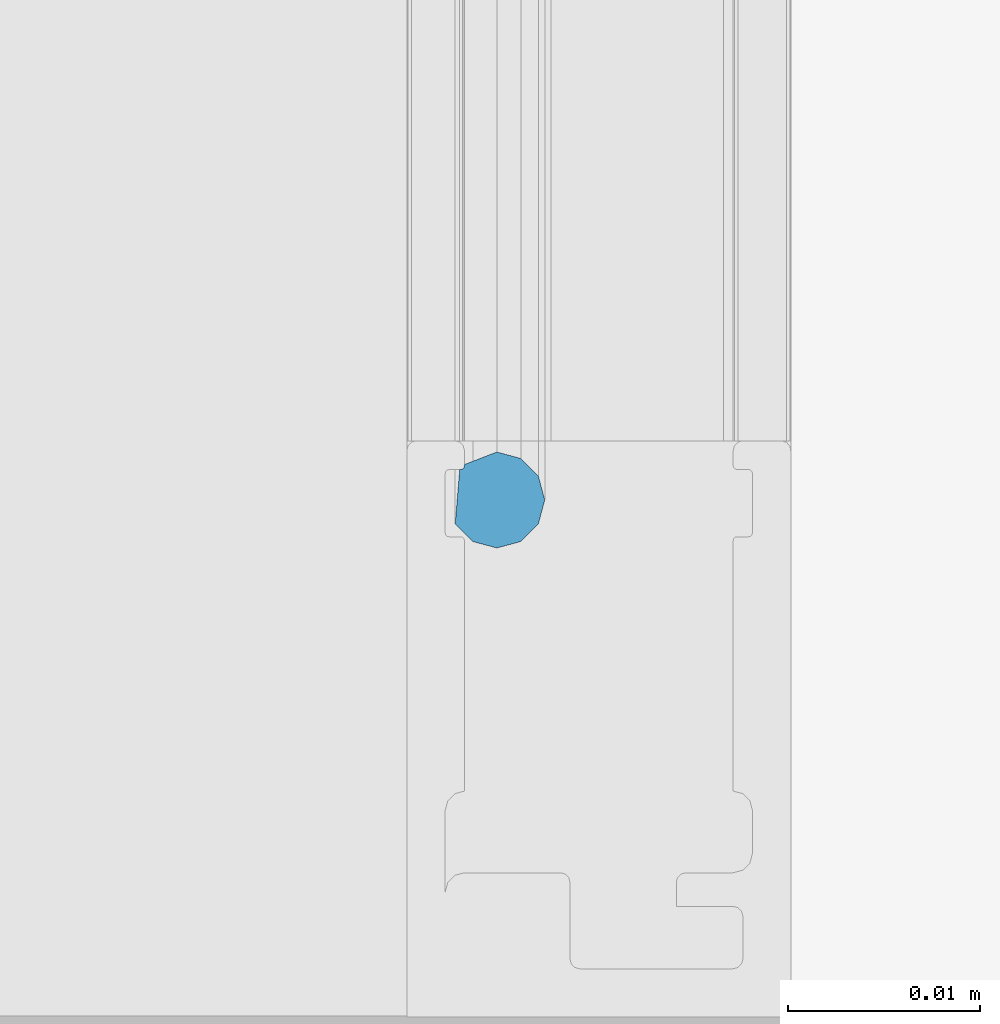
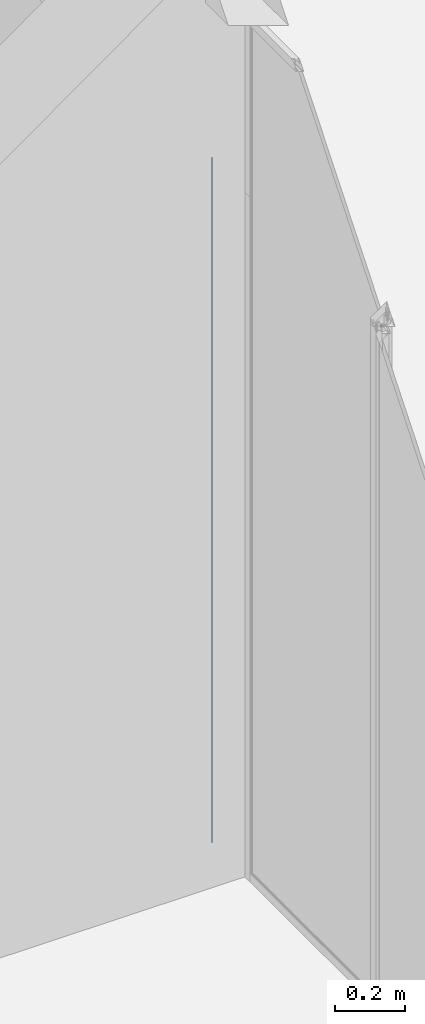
# One storey, part 93 of 387: 1 building element part, 2 elements without a shape of their own.
"""IFC2X3 building model written with IfcOpenShell, lengths in millimetres."""

from ifc_helpers import new_model, entity, si_unit, converted_unit, derived_unit, money_unit, direction, frame, origin_with_axes, place, context, subcontext, project, spatial, faceted_brep, source, transform, mapped, material, type_object, element, aggregate, save


model = new_model("IFC2X3")

# Units and contexts
model_context = context("Model", 3, precision=0.01, world=origin_with_axes(), true_north=direction((0.0, 1.0)))
body_context = subcontext(model_context, "Body", "Model", "MODEL_VIEW")
ifc_project = project(units=[si_unit("LENGTHUNIT", "METRE", prefix="MILLI"), si_unit("AREAUNIT", "SQUARE_METRE"), si_unit("VOLUMEUNIT", "CUBIC_METRE"), converted_unit("PLANEANGLEUNIT", "DEGREE", entity("IfcPlaneAngleMeasure", 0.0174532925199), si_unit("PLANEANGLEUNIT", "RADIAN"), dimensions=[0, 0, 0, 0, 0, 0, 0]), si_unit("SOLIDANGLEUNIT", "STERADIAN"), money_unit("EUR"), converted_unit("TIMEUNIT", "Year", entity("IfcTimeMeasure", 31556926.0), si_unit("TIMEUNIT", "SECOND"), dimensions=[0, 0, 1, 0, 0, 0, 0]), si_unit("MASSUNIT", "GRAM", prefix="KILO"), si_unit("THERMODYNAMICTEMPERATUREUNIT", "DEGREE_CELSIUS"), si_unit("LUMINOUSINTENSITYUNIT", "LUMEN"), si_unit("ENERGYUNIT", "JOULE", prefix="MEGA"), derived_unit("THERMALCONDUCTANCEUNIT", [(si_unit("POWERUNIT", "WATT"), 1), (si_unit("LENGTHUNIT", "METRE"), -1), (si_unit("THERMODYNAMICTEMPERATUREUNIT", "KELVIN"), -1)]), derived_unit("SPECIFICHEATCAPACITYUNIT", [(si_unit("ENERGYUNIT", "JOULE"), 1), (si_unit("MASSUNIT", "GRAM", prefix="KILO"), -1), (si_unit("THERMODYNAMICTEMPERATUREUNIT", "KELVIN"), -1)]), derived_unit("MASSDENSITYUNIT", [(si_unit("MASSUNIT", "GRAM", prefix="KILO"), 1), (si_unit("VOLUMEUNIT", "CUBIC_METRE"), -1)])], contexts=[model_context])

# Site, building, storey
site_placement = place(None, origin_with_axes())
site = spatial("IfcSite", under=ifc_project, at=site_placement, Name="Puškini 31, Narva", CompositionType="ELEMENT")
building_placement = place(site_placement, origin_with_axes())
building = spatial("IfcBuilding", under=site, at=building_placement, Name="Narva Riigigümnaasium", CompositionType="ELEMENT")
storey_placement = place(building_placement, frame((0.0, 0.0, 2640.0), z_axis=(0.0, 0.0, 1.0), x_axis=(1.0, 0.0, 0.0)))
storey = spatial("IfcBuildingStorey", under=building, at=storey_placement, Name="2.korrus +2.64", CompositionType="ELEMENT", Elevation=2640.0)

# Curtain wall, member, building element part
curtain_wall_type = type_object("IfcCurtainWallType", Name="Curtain Wall Type", PredefinedType="NOTDEFINED")
curtain_wall_placement = place(storey_placement, frame((28390.0000001, 185629.946958, -0.000112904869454), z_axis=(0.0, 0.0, 1.0), x_axis=(1.0, 0.0, 0.0)))
curtain_wall = element("IfcCurtainWall", 1, at=curtain_wall_placement, inside=storey, type_object=curtain_wall_type, Name="G-SKLF-20")
member_type = type_object("IfcMemberType", Name="30 x 10", PredefinedType="MULLION")
member_placement = place(curtain_wall_placement, frame((0.0, -1200.0, 0.0), z_axis=(0.0, 0.0, 1.0), x_axis=(0.0, -1.0, 0.0)))
member = element("IfcMember", 2, at=member_placement, type_object=member_type, Name="G-SKLF-42-raam", ObjectType="MULLION")
aggregate(curtain_wall, [member])
ifc_material = material(Name="Membraan - Veekindel")
shared_shape = source(origin_with_axes(), body_context, "Body", "Brep", [
    faceted_brep([(28.5, 7.24760028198, 0.0), (25.6641727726, 7.48000965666, 0.0), (25.6641727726, 7.48000965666, 2400.00000477), (28.5, 7.24760028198, 2400.00000477), (28.5, 7.19999999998, 0.0), (28.5267949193, 7.09999999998, 0.0), (28.6, 7.02679491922, 0.0), (28.7, 6.99999999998, 0.0), (28.7609519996, 6.99999999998, 0.0), (29.4141727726, 5.31494614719, 0.0), (29.079236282, 4.06494614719, 0.0), (28.1641727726, 3.14988263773, 0.0), (26.9141727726, 2.81494614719, 0.0), (25.6641727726, 3.14988263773, 0.0), (24.7491092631, 4.06494614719, 0.0), (24.4141727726, 5.31494614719, 0.0), (24.7491092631, 6.56494614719, 0.0), (24.7491092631, 6.56494614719, 2400.00000477), (24.4141727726, 5.31494614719, 2400.00000477), (24.7491092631, 4.06494614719, 2400.00000477), (25.6641727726, 3.14988263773, 2400.00000477), (26.9141727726, 2.81494614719, 2400.00000477), (28.1641727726, 3.14988263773, 2400.00000477), (29.079236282, 4.06494614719, 2400.00000477), (29.4141727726, 5.31494614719, 2400.00000477), (28.7609519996, 6.99999999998, 2400.00000477), (28.7, 6.99999999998, 2400.00000477), (28.6, 7.02679491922, 2400.00000477), (28.5267949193, 7.09999999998, 2400.00000477), (28.5, 7.19999999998, 2400.00000477)], [[[0, 1, 2, 3]], [[0, 4, 5, 6, 7, 8, 9, 10, 11, 12, 13, 14, 15, 16, 1]], [[1, 16, 17, 2]], [[3, 2, 17, 18, 19, 20, 21, 22, 23, 24, 25, 26, 27, 28, 29]], [[4, 0, 3, 29]], [[5, 4, 29, 28]], [[6, 5, 28, 27]], [[7, 6, 27, 26]], [[8, 7, 26, 25]], [[9, 8, 25, 24]], [[10, 9, 24, 23]], [[11, 10, 23, 22]], [[12, 11, 22, 21]], [[13, 12, 21, 20]], [[14, 13, 20, 19]], [[15, 14, 19, 18]], [[16, 15, 18, 17]]]),
])
building_element_part_placement = place(member_placement, origin_with_axes())
building_element_part = element("IfcBuildingElementPart", 3, at=building_element_part_placement, material=ifc_material, Name="Membraan - Veekindel", context=body_context, shape_type="MappedRepresentation", body=[
    mapped(shared_shape, transform((0.0, 0.0, 0.0), x_axis=(-1.0, 0.0, 0.0), y_axis=(0.0, -1.0, 0.0), z_axis=(0.0, 0.0, 1.0))),
])
aggregate(member, [building_element_part])

save(model, "model.ifc")
